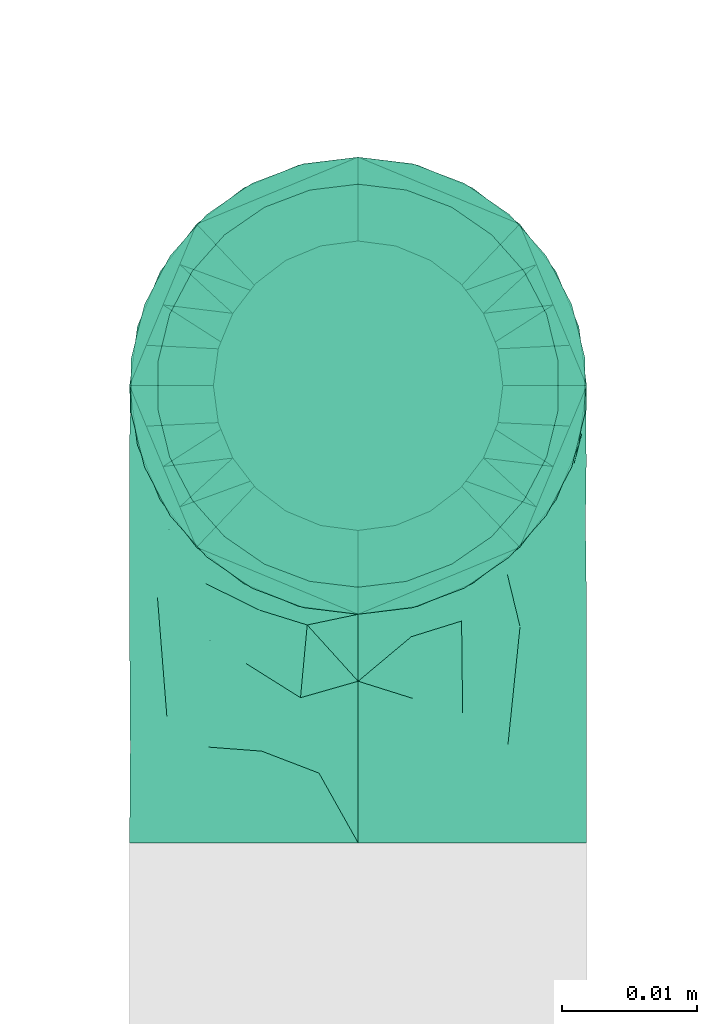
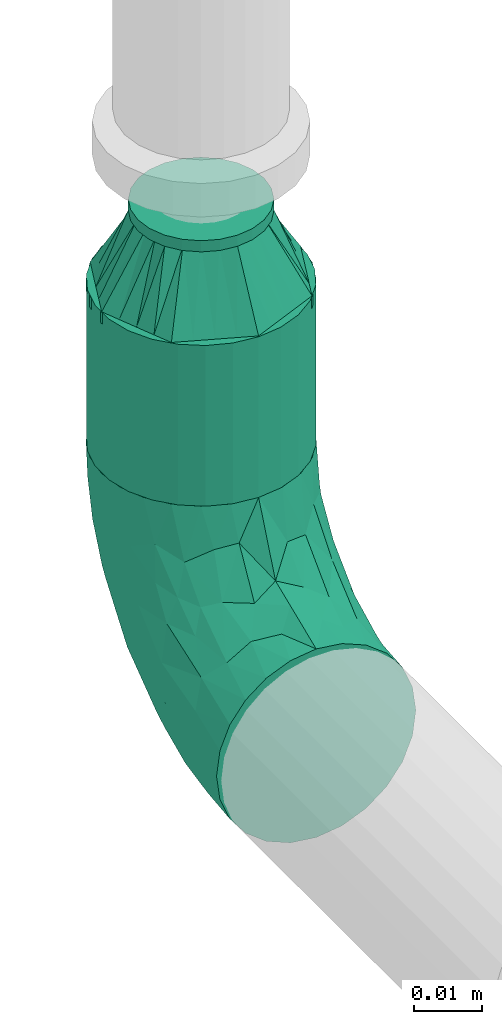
# One storey, part 23 of 94: 2 flow fittings, 1 flow segment.
"""IFC2X3 building model written with IfcOpenShell, lengths in millimetres."""

from ifc_helpers import new_model, entity, si_unit, converted_unit, derived_unit, direction, frame, origin_with_axes, origin_2d_with_axis, place, context, subcontext, project, spatial, hollow_circle, extrude, open_shell, surface_model, source, transform, mapped, type_object, element, save


model = new_model("IFC2X3")

# Units and contexts
model_context = context("Model", 3, precision=0.01, world=frame((0.0, 4.29681676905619e-09, 0.0)), true_north=direction((4.01073788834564e-13, 1.0)))
plan_context = context("Plan", 3, precision=0.01, world=frame((0.0, 4.29681676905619e-09, 0.0)), true_north=direction((4.01073788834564e-13, 1.0)))
body_context = subcontext(model_context, "Body", "Model", "MODEL_VIEW")
ifc_project = project(units=[converted_unit("PLANEANGLEUNIT", "DEGREE", entity("IfcPositiveLengthMeasure", 0.0174532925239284), si_unit("PLANEANGLEUNIT", "RADIAN"), dimensions=[0, 0, 0, 0, 0, 0, 0]), si_unit("AREAUNIT", "SQUARE_METRE"), si_unit("LENGTHUNIT", "METRE", prefix="MILLI"), si_unit("MASSUNIT", "GRAM", prefix="KILO"), si_unit("POWERUNIT", "WATT"), si_unit("PRESSUREUNIT", "PASCAL"), si_unit("FORCEUNIT", "NEWTON", prefix="KILO"), si_unit("ELECTRICCURRENTUNIT", "AMPERE"), si_unit("THERMODYNAMICTEMPERATUREUNIT", "DEGREE_CELSIUS"), si_unit("TIMEUNIT", "SECOND"), si_unit("VOLUMEUNIT", "CUBIC_METRE"), derived_unit("LINEARVELOCITYUNIT", [(si_unit("LENGTHUNIT", "METRE"), 1), (si_unit("TIMEUNIT", "SECOND"), -1)]), derived_unit("VOLUMETRICFLOWRATEUNIT", [(si_unit("VOLUMEUNIT", "CUBIC_METRE"), 1), (si_unit("TIMEUNIT", "SECOND"), -1)]), derived_unit("THERMALTRANSMITTANCEUNIT", [(si_unit("POWERUNIT", "WATT"), 1), (si_unit("THERMODYNAMICTEMPERATUREUNIT", "KELVIN"), -1), (si_unit("AREAUNIT", "SQUARE_METRE"), -1)])], contexts=[model_context, plan_context])

# Site, building, storey
site_placement = place(None, frame((0.0, -4.29681676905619e-09, 0.0), z_axis=(0.0, 0.0, 1.0), x_axis=(1.0, 0.0, 0.0)))
site = spatial("IfcSite", under=ifc_project, at=site_placement, CompositionType="ELEMENT")
building_placement = place(site_placement, frame((0.0, 4.29681676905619e-09, 0.0), z_axis=(0.0, 0.0, 1.0), x_axis=(1.0, 0.0, 0.0)))
building = spatial("IfcBuilding", under=site, at=building_placement, Name="mc-building", CompositionType="ELEMENT")
storey_placement = place(building_placement, frame((0.0, 0.0, 200300.0), z_axis=(0.0, 0.0, 1.0), x_axis=(1.0, 0.0, 0.0)))
storey = spatial("IfcBuildingStorey", under=building, at=storey_placement, Name="Nivå C", CompositionType="ELEMENT", Elevation=200300.0)

# Flow fittings
pipe_fitting_type_1 = type_object("IfcPipeFittingType", Name="magi_pipe_fe_reducer_centric_short_NOR", PredefinedType="TRANSITION")
shared_shape_1 = source(origin_with_axes(), body_context, "Body", "SurfaceModel", [
    surface_model("IfcShellBasedSurfaceModel", [(14.4, 5.35, -9.26647), (14.4, 0.0, -10.7), (14.4, 2.76936, -10.33541), (14.4, 10.33541, -2.76936), (14.4, 7.56604, -7.56604), (14.4, -10.33541, -2.76936), (14.4, 9.26647, -5.35), (14.4, 0.0, 10.7), (14.4, -5.35, -9.26647), (14.4, -2.76936, -10.33541), (14.4, -7.56604, -7.56604), (14.4, -9.26647, -5.35), (14.4, 10.7, 0.0), (14.4, 10.33541, 2.76936), (14.4, 9.26647, 5.35), (14.4, 7.56604, 7.56604), (14.4, 2.76936, 10.33541), (14.4, 5.35, 9.26647), (14.4, -10.33541, 2.76936), (14.4, -7.56604, 7.56604), (14.4, -9.26647, 5.35), (14.4, -10.7, 0.0), (14.4, -2.76936, 10.33541), (14.4, -5.35, 9.26647), (12.4, 2.76936, 10.33541), (12.4, -10.33541, -2.76936), (12.4, 0.0, 10.7), (12.4, 5.35, 9.26647), (12.4, 7.56604, 7.56604), (12.4, 9.26647, 5.35), (12.4, 10.33541, 2.76936), (12.4, -10.33541, 2.76936), (12.4, -2.76936, 10.33541), (12.4, -7.56604, 7.56604), (12.4, -5.35, 9.26647), (12.4, -9.26647, 5.35), (12.4, -10.7, 0.0), (12.4, 10.33541, -2.76936), (12.4, 5.35, -9.26647), (12.4, 9.26647, -5.35), (12.4, 7.56604, -7.56604), (12.4, 2.76936, -10.33541), (12.4, -9.26647, -5.35), (12.4, -5.35, -9.26647), (12.4, -7.56604, -7.56604), (12.4, 0.0, -10.7), (12.4, -2.76936, -10.33541), (12.4, 10.7, 0.0), (-2.0, 11.9501, 11.9501), (-2.0, 0.0, 16.9), (-2.0, 4.37404, 16.32415), (-2.0, 8.45, 14.63583), (-2.0, 14.63583, 8.45), (-2.0, 16.32415, 4.37404), (-2.0, -16.32415, 4.37404), (-2.0, -8.45, 14.63583), (-2.0, -14.63583, 8.45), (-2.0, -11.9501, 11.9501), (-2.0, -4.37404, 16.32415), (-2.0, -16.32415, -4.37404), (-2.0, -16.9, 0.0), (-2.0, -8.45, -14.63583), (-2.0, 16.32415, -4.37404), (-2.0, 11.9501, -11.9501), (-2.0, 14.63583, -8.45), (-2.0, 8.45, -14.63583), (-2.0, 4.37404, -16.32415), (-2.0, 0.0, -16.9), (-2.0, -11.9501, -11.9501), (-2.0, -14.63583, -8.45), (-2.0, -4.37404, -16.32415), (-2.0, 16.9, 0.0), (0.0, 4.37404, -16.32415), (0.0, 8.45, -14.63583), (0.0, 11.9501, -11.9501), (0.0, 0.0, -16.9), (0.0, 16.32415, -4.37404), (0.0, 16.32415, 4.37404), (0.0, 14.63583, -8.45), (0.0, -8.45, -14.63583), (0.0, -4.37404, -16.32415), (0.0, -11.9501, -11.9501), (0.0, -16.32415, -4.37404), (0.0, -14.63583, -8.45), (0.0, -16.32415, 4.37404), (0.0, 16.9, 0.0), (0.0, 14.63583, 8.45), (0.0, 11.9501, 11.9501), (0.0, 4.37404, 16.32415), (0.0, 8.45, 14.63583), (0.0, 0.0, 16.9), (0.0, -14.63583, 8.45), (0.0, -16.9, 0.0), (0.0, -8.45, 14.63583), (0.0, -11.9501, 11.9501), (0.0, -4.37404, 16.32415), (12.4, 9.3625, -2.31662), (0.0, 14.42505, -5.97505), (0.0, 15.66253, -2.98753), (12.4, -6.6875, -6.94985), (0.0, -13.18758, -8.96258), (0.0, 2.98753, -15.66253), (12.4, 0.0, -9.26647), (12.4, 6.6875, -6.94985), (0.0, 8.96258, -13.18758), (12.4, -9.3625, -2.31662), (0.0, -15.66253, -2.98753), (0.0, -14.42505, -5.97505), (0.0, 5.97505, -14.42505), (0.0, -2.98753, -15.66253), (0.0, -8.96258, -13.18758), (0.0, 13.18758, -8.96258), (12.4, 8.025, -4.63324), (12.4, -2.675, -9.26647), (12.4, 2.675, -9.26647), (0.0, -5.97505, -14.42505), (12.4, -8.025, -4.63324), (12.4, -9.3625, 2.31662), (0.0, -14.42505, 5.97505), (0.0, -15.66253, 2.98753), (12.4, 6.6875, 6.94985), (0.0, 13.18758, 8.96258), (0.0, -2.98753, 15.66253), (12.4, 0.0, 9.26647), (12.4, -6.6875, 6.94985), (0.0, -8.96258, 13.18758), (12.4, 9.3625, 2.31662), (0.0, 15.66253, 2.98753), (0.0, 14.42505, 5.97505), (0.0, -5.97505, 14.42505), (0.0, 2.98753, 15.66253), (0.0, 8.96258, 13.18758), (0.0, -13.18758, 8.96258), (12.4, -8.025, 4.63324), (12.4, 2.675, 9.26647), (12.4, -2.675, 9.26647), (0.0, 5.97505, 14.42505), (12.4, 8.025, 4.63324)], [open_shell([[[0, 1, 2]], [[3, 0, 4]], [[5, 0, 3]], [[3, 4, 6]], [[7, 5, 3]], [[1, 8, 9]], [[1, 0, 8]], [[10, 5, 11]], [[5, 10, 8]], [[0, 5, 8]], [[3, 12, 13]], [[13, 14, 15]], [[13, 15, 16]], [[7, 3, 16]], [[16, 15, 17]], [[7, 18, 5]], [[18, 19, 20]], [[21, 5, 18]], [[19, 22, 23]], [[22, 19, 18]], [[7, 22, 18]], [[13, 16, 3]], [[24, 25, 26]], [[27, 25, 24]], [[28, 29, 30]], [[28, 25, 27]], [[31, 26, 25]], [[32, 33, 34]], [[33, 32, 31]], [[33, 31, 35]], [[32, 26, 31]], [[31, 25, 36]], [[30, 37, 28]], [[25, 28, 37]], [[38, 37, 39]], [[37, 38, 25]], [[38, 39, 40]], [[41, 25, 38]], [[42, 43, 44]], [[43, 42, 25]], [[43, 45, 46]], [[43, 25, 41]], [[41, 45, 43]], [[37, 30, 47]], [[25, 5, 36]], [[42, 11, 25]], [[8, 44, 43]], [[42, 44, 10]], [[9, 43, 46]], [[25, 11, 5]], [[5, 21, 36]], [[9, 8, 43]], [[10, 44, 8]], [[10, 11, 42]], [[1, 9, 46]], [[46, 45, 1]], [[41, 2, 45]], [[38, 0, 41]], [[6, 40, 39]], [[38, 40, 4]], [[3, 39, 37]], [[38, 4, 0]], [[0, 2, 41]], [[12, 3, 37]], [[6, 39, 3]], [[6, 4, 40]], [[47, 12, 37]], [[45, 2, 1]], [[30, 13, 47]], [[29, 14, 30]], [[17, 28, 27]], [[29, 28, 15]], [[16, 27, 24]], [[30, 14, 13]], [[13, 12, 47]], [[16, 17, 27]], [[15, 28, 17]], [[15, 14, 29]], [[7, 16, 24]], [[24, 26, 7]], [[32, 22, 26]], [[34, 23, 32]], [[20, 33, 35]], [[34, 33, 19]], [[18, 35, 31]], [[34, 19, 23]], [[23, 22, 32]], [[21, 18, 31]], [[20, 35, 18]], [[20, 19, 33]], [[36, 21, 31]], [[26, 22, 7]], [[48, 49, 50]], [[48, 50, 51]], [[48, 52, 53]], [[48, 53, 49]], [[49, 53, 54]], [[55, 56, 57]], [[55, 58, 49]], [[56, 55, 49]], [[49, 54, 56]], [[54, 59, 60]], [[54, 53, 61]], [[53, 62, 63]], [[63, 62, 64]], [[63, 65, 66]], [[61, 53, 63]], [[67, 63, 66]], [[59, 68, 69]], [[68, 59, 61]], [[61, 67, 70]], [[59, 54, 61]], [[63, 67, 61]], [[53, 71, 62]], [[72, 73, 74]], [[75, 72, 74]], [[74, 76, 77]], [[76, 74, 78]], [[74, 77, 79]], [[75, 79, 80]], [[75, 74, 79]], [[81, 82, 83]], [[82, 81, 79]], [[79, 84, 82]], [[77, 76, 85]], [[77, 86, 87]], [[77, 87, 88]], [[88, 84, 79]], [[88, 87, 89]], [[84, 88, 90]], [[90, 91, 84]], [[92, 82, 84]], [[91, 93, 94]], [[91, 90, 93]], [[93, 90, 95]], [[79, 77, 88]], [[59, 82, 60]], [[69, 83, 59]], [[79, 68, 61]], [[69, 68, 81]], [[80, 61, 70]], [[59, 83, 82]], [[82, 92, 60]], [[80, 79, 61]], [[81, 68, 79]], [[81, 83, 69]], [[75, 80, 70]], [[70, 67, 75]], [[66, 72, 67]], [[65, 73, 66]], [[78, 63, 64]], [[65, 63, 74]], [[76, 64, 62]], [[65, 74, 73]], [[73, 72, 66]], [[85, 76, 62]], [[78, 64, 76]], [[78, 74, 63]], [[71, 85, 62]], [[67, 72, 75]], [[53, 77, 71]], [[52, 86, 53]], [[89, 48, 51]], [[52, 48, 87]], [[88, 51, 50]], [[53, 86, 77]], [[77, 85, 71]], [[88, 89, 51]], [[87, 48, 89]], [[87, 86, 52]], [[90, 88, 50]], [[50, 49, 90]], [[58, 95, 49]], [[55, 93, 58]], [[91, 57, 56]], [[55, 57, 94]], [[84, 56, 54]], [[55, 94, 93]], [[93, 95, 58]], [[92, 84, 54]], [[91, 56, 84]], [[91, 94, 57]], [[60, 92, 54]], [[49, 95, 90]], [[27, 34, 47]], [[47, 34, 43]], [[43, 38, 47]], [[43, 34, 36]], [[90, 87, 94]], [[92, 94, 87]], [[87, 74, 92]], [[75, 92, 74]], [[81, 92, 75]], [[74, 87, 85]], [[96, 97, 98]], [[81, 99, 100]], [[101, 102, 75]], [[98, 85, 47]], [[74, 103, 104]], [[104, 103, 38]], [[105, 106, 107]], [[38, 108, 104]], [[102, 109, 75]], [[110, 99, 81]], [[47, 96, 98]], [[103, 111, 112]], [[109, 102, 113]], [[36, 92, 106]], [[102, 101, 114]], [[110, 115, 43]], [[96, 112, 97]], [[107, 116, 105]], [[36, 106, 105]], [[113, 115, 109]], [[43, 115, 113]], [[116, 107, 100]], [[108, 38, 114]], [[111, 103, 74]], [[111, 97, 112]], [[99, 110, 43]], [[116, 100, 99]], [[101, 108, 114]], [[117, 118, 119]], [[87, 120, 121]], [[122, 123, 90]], [[119, 92, 36]], [[94, 124, 125]], [[125, 124, 34]], [[126, 127, 128]], [[34, 129, 125]], [[123, 130, 90]], [[131, 120, 87]], [[36, 117, 119]], [[124, 132, 133]], [[130, 123, 134]], [[47, 85, 127]], [[123, 122, 135]], [[131, 136, 27]], [[117, 133, 118]], [[128, 137, 126]], [[47, 127, 126]], [[134, 136, 130]], [[27, 136, 134]], [[137, 128, 121]], [[129, 34, 135]], [[132, 124, 94]], [[132, 118, 133]], [[120, 131, 27]], [[137, 121, 120]], [[122, 129, 135]]])]),
])
flow_fitting_1_placement = place(storey_placement, frame((524508.12395, 403933.19532, 2962.64799999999), z_axis=(-1.0, 0.0, 0.0), x_axis=(0.0, 0.0, 1.0)))
element("IfcFlowFitting", 1, at=flow_fitting_1_placement, inside=storey, type_object=pipe_fitting_type_1, Name="magi_pipe_fe_reducer_centric_short_NOR", context=body_context, shape_type="MappedRepresentation", body=[
    mapped(shared_shape_1, transform((0.0, 0.0, 0.0), scale=1.0)),
])
pipe_fitting_type_2 = type_object("IfcPipeFittingType", Name="magi_pipe_fe_elbow_short_001", PredefinedType="BEND")
shared_shape_2 = source(origin_with_axes(), body_context, "Body", "SurfaceModel", [
    surface_model("IfcShellBasedSurfaceModel", [(-33.8, 8.45, -14.63583), (-33.8, 4.37404, -16.32415), (-33.8, 11.9501, -11.9501), (-33.8, -11.9501, -11.9501), (-33.8, -14.63583, -8.45), (-33.8, -8.45, -14.63583), (-33.8, 0.0, -16.9), (-33.8, -4.37404, -16.32415), (-33.8, -4.37404, 16.32415), (-33.8, 0.0, 16.9), (-33.8, -8.45, 14.63583), (-33.8, 16.32415, -4.37404), (-33.8, 14.63583, -8.45), (-33.8, -16.32415, -4.37404), (-33.8, -16.9, 0.0), (-33.8, -16.32415, 4.37404), (-33.8, 11.9501, 11.9501), (-33.8, 14.63583, 8.45), (-33.8, 16.32415, 4.37404), (-33.8, 4.37404, 16.32415), (-33.8, 8.45, 14.63583), (-33.8, -14.63583, 8.45), (-33.8, -11.9501, 11.9501), (-33.8, 16.9, 0.0), (-11.9501, 33.8, -11.9501), (0.0, 33.8, -16.9), (-4.37404, 33.8, -16.32415), (-8.45, 33.8, -14.63583), (-14.63583, 33.8, -8.45), (-16.32415, 33.8, -4.37404), (14.63583, 33.8, -8.45), (8.45, 33.8, 14.63583), (16.32415, 33.8, -4.37404), (8.45, 33.8, -14.63583), (11.9501, 33.8, -11.9501), (4.37404, 33.8, -16.32415), (16.32415, 33.8, 4.37404), (16.9, 33.8, 0.0), (-11.9501, 33.8, 11.9501), (-16.32415, 33.8, 4.37404), (-14.63583, 33.8, 8.45), (-8.45, 33.8, 14.63583), (-4.37404, 33.8, 16.32415), (11.9501, 33.8, 11.9501), (14.63583, 33.8, 8.45), (0.0, 33.8, 16.9), (4.37404, 33.8, 16.32415), (-16.9, 33.8, 0.0), (-24.79389, -13.12945, 9.48721), (-22.19287, -9.75018, 12.59315), (-24.09897, -14.97035, 0.0), (-14.93934, -10.76256, 8.5297), (-22.46095, -14.75051, 5.27077), (14.75051, 22.46094, 5.27077), (11.9251, 13.23888, 4.33236), (13.04069, 14.39795, 0.0), (7.71387, 13.68847, 11.55891), (9.75018, 22.19287, 12.59315), (4.10169, 13.0571, 14.04018), (-24.84007, -6.39063, 15.2048), (-25.81779, -2.23879, 16.61097), (-23.66549, 2.59054, 16.87119), (-26.50418, 14.06512, 11.08152), (-24.21253, 17.66365, 7.72657), (-29.58514, 15.86957, 7.00283), (-6.17382, -7.5455, 0.0), (-13.23888, -11.9251, 4.33236), (-14.39795, -13.04069, 0.0), (-17.81434, 18.87373, 11.97104), (-6.30846, 29.15138, 15.82987), (-2.31622, 25.28002, 16.85849), (-29.23923, 10.23435, 13.77053), (-1.45439, -2.85688, 7.61475), (-0.28326, 0.34872, 10.09509), (-5.74484, -4.04709, 10.4122), (-4.41137, 11.31918, 16.59407), (-8.39727, 3.10034, 15.7812), (-1.72649, 9.1306, 15.53089), (-17.39909, 24.75344, 7.64977), (-26.19233, 20.0512, 0.0), (-28.14518, 17.29657, 4.25857), (-26.05147, 6.6281, 15.96447), (-5.87354, 16.61944, 16.86968), (-12.51807, 12.51807, 16.48937), (-10.06312, 7.38516, 16.81295), (-3.01882, 3.01882, 13.81718), (-13.0571, -4.10169, 14.04018), (-16.82553, -0.15166, 16.38038), (10.76256, 14.93934, 8.5297), (13.12945, 24.79389, 9.48721), (6.39063, 24.84007, 15.2048), (2.23879, 25.81779, 16.61097), (-13.68847, -7.71387, 11.55891), (14.97035, 24.09897, 0.0), (-7.30894, 22.89991, 16.09489), (-10.67958, 26.17414, 14.008), (-12.78295, 18.26924, 15.06066), (-13.88562, 22.45231, 12.93244), (-18.04944, 15.16501, 14.04434), (-23.11658, 20.08178, 4.02986), (-21.84989, 21.84989, 0.0), (-18.55817, 25.48277, 3.93065), (-13.95142, 26.94732, 11.03289), (-18.57098, 7.23906, 16.59756), (-16.58335, 4.14122, 16.89279), (-17.96666, 11.46709, 15.63151), (-9.84453, 17.54304, 16.18938), (0.15166, 16.82553, 16.38038), (-23.27207, 11.47201, 14.23154), (3.84842, 5.86994, 10.70473), (-8.0212, -7.54413, 7.93275), (1.00345, -2.19508, 4.57414), (5.13203, 3.01004, 5.90201), (5.24161, 1.7543, 2.53265), (8.70457, 7.04947, 3.99182), (-20.0512, 26.19233, 0.0), (8.4852, 8.76699, 7.09296), (-4.55488, -6.72064, 4.90681), (2.05031, -2.05031, 0.0), (7.5455, 6.17382, 0.0), (-26.75399, 2.1369, -16.845), (-14.61995, 24.73803, -11.27736), (-28.45274, -13.45335, -9.81895), (-26.00469, 6.63555, -15.96645), (-23.06726, 20.04573, -4.26202), (-13.80647, -4.26506, -14.17873), (-14.67501, -0.21081, -16.07388), (-6.7902, -0.2828, -13.8478), (-24.53586, 11.08096, -14.13417), (-26.72048, 14.00837, -11.05776), (10.0967, 24.44989, -12.75976), (5.83237, 21.40218, -15.03047), (6.66249, 28.54238, -15.38093), (-20.38182, 15.48705, -12.74596), (12.53268, 21.23441, -9.15363), (12.54494, 15.67504, -5.54878), (9.7522, 12.89279, -8.66343), (-15.65186, 19.64213, -13.01327), (-12.03528, 20.66498, -14.67665), (-15.61907, 15.61906, -14.83879), (-25.56551, -15.26206, 0.0), (-24.65452, -15.12934, -5.50955), (13.45335, 28.45274, -9.81895), (15.12934, 24.65452, -5.50955), (-7.35442, -8.31014, -5.65563), (-15.67504, -12.54494, -5.54878), (-24.44989, -10.0967, -12.75976), (0.16522, 0.41303, -9.71728), (-5.70658, -5.33066, -8.89288), (-5.13869, -2.37198, -11.53565), (-21.23441, -12.53268, -9.15363), (0.71146, 7.93863, -14.09382), (0.21081, 14.67501, -16.07388), (3.49291, 14.42772, -14.76381), (-24.89911, -2.13088, -16.591), (-28.54238, -6.66249, -15.38093), (-18.44386, -7.71663, -13.26957), (2.13088, 24.89911, -16.591), (-28.64342, 17.44413, -2.89318), (1.70017, -1.28722, -5.09504), (-16.57067, 26.81947, -7.36596), (-17.69055, 27.4263, -3.76405), (-12.89279, -9.7522, -8.66343), (-5.96611, 5.96611, -15.95814), (-20.53709, 20.09345, -8.28985), (-2.1369, 26.75399, -16.845), (-6.89872, 24.58781, -16.02578), (-10.60739, 26.53157, -13.98044), (-21.40218, -5.83237, -15.03047), (2.93192, 5.89627, -11.55917), (6.89393, 12.61842, -11.82233), (5.58056, 5.95325, -8.79455), (-3.99512, 18.61798, -16.89635), (8.31014, 7.35442, -5.65563), (-9.1383, 9.86148, -16.89041), (-9.99983, 16.02119, -16.39699), (-16.68576, 9.78031, -16.34199), (-27.01915, 16.61158, -7.12979), (15.26206, 25.56551, 0.0), (-18.61798, 3.99512, -16.89635), (-19.37495, 27.82495, 0.0), (-12.61842, -6.89393, -11.82233), (-18.84705, 19.14018, -10.96545)], [open_shell([[[0, 1, 2]], [[3, 4, 5]], [[6, 7, 5]], [[8, 9, 10]], [[1, 6, 2]], [[11, 12, 2]], [[4, 2, 6]], [[2, 13, 10]], [[5, 4, 6]], [[2, 4, 13]], [[14, 15, 13]], [[11, 2, 16]], [[11, 17, 18]], [[11, 16, 17]], [[19, 20, 16]], [[16, 2, 10]], [[19, 16, 10]], [[21, 22, 15]], [[22, 13, 15]], [[22, 10, 13]], [[10, 9, 19]], [[11, 18, 23]], [[24, 25, 26]], [[24, 26, 27]], [[24, 28, 29]], [[25, 24, 30]], [[31, 32, 24]], [[33, 30, 34]], [[33, 35, 25]], [[25, 30, 33]], [[32, 30, 24]], [[32, 36, 37]], [[38, 24, 29]], [[39, 40, 29]], [[40, 38, 29]], [[38, 41, 42]], [[38, 31, 24]], [[31, 38, 42]], [[36, 43, 44]], [[36, 32, 43]], [[31, 45, 46]], [[32, 31, 43]], [[42, 45, 31]], [[39, 29, 47]], [[22, 48, 49]], [[15, 14, 50]], [[51, 48, 52]], [[53, 54, 55]], [[48, 22, 21]], [[15, 52, 21]], [[56, 57, 58]], [[49, 10, 22]], [[49, 59, 10]], [[9, 60, 61]], [[62, 63, 64]], [[65, 66, 67]], [[57, 43, 31]], [[62, 68, 63]], [[42, 69, 70]], [[20, 71, 16]], [[8, 60, 9]], [[72, 73, 74]], [[75, 76, 77]], [[16, 62, 17]], [[40, 39, 78]], [[79, 23, 80]], [[64, 18, 17]], [[9, 61, 19]], [[19, 81, 20]], [[82, 83, 84]], [[74, 85, 86]], [[59, 86, 87]], [[88, 89, 57]], [[90, 31, 46]], [[44, 53, 36]], [[46, 45, 91]], [[54, 53, 88]], [[44, 89, 53]], [[92, 86, 49]], [[89, 44, 43]], [[10, 59, 8]], [[53, 55, 93]], [[93, 36, 53]], [[66, 52, 67]], [[94, 82, 70]], [[95, 96, 94]], [[97, 98, 96]], [[79, 99, 100]], [[41, 38, 95]], [[101, 100, 99]], [[68, 78, 63]], [[42, 41, 69]], [[23, 18, 80]], [[95, 94, 69]], [[78, 101, 99]], [[38, 102, 95]], [[70, 45, 42]], [[97, 95, 102]], [[15, 50, 52]], [[90, 57, 31]], [[57, 90, 58]], [[81, 19, 61]], [[103, 104, 84]], [[105, 81, 103]], [[38, 40, 102]], [[106, 96, 83]], [[94, 106, 82]], [[91, 70, 107]], [[71, 62, 16]], [[62, 108, 98]], [[86, 59, 49]], [[67, 52, 50]], [[60, 59, 87]], [[92, 49, 51]], [[86, 85, 76]], [[91, 90, 46]], [[37, 36, 93]], [[107, 77, 58]], [[107, 58, 90]], [[58, 85, 109]], [[110, 74, 92]], [[72, 74, 110]], [[66, 51, 52]], [[72, 111, 112]], [[113, 114, 112]], [[56, 88, 57]], [[52, 48, 21]], [[49, 48, 51]], [[57, 89, 43]], [[53, 89, 88]], [[103, 81, 61]], [[71, 81, 108]], [[18, 64, 80]], [[63, 78, 99]], [[47, 115, 101]], [[101, 115, 100]], [[40, 78, 102]], [[68, 102, 78]], [[97, 96, 95]], [[105, 98, 108]], [[103, 84, 83]], [[107, 70, 82]], [[76, 84, 87]], [[82, 84, 75]], [[70, 91, 45]], [[90, 91, 107]], [[59, 60, 8]], [[61, 60, 87]], [[73, 85, 74]], [[109, 112, 116]], [[103, 61, 104]], [[105, 103, 83]], [[96, 105, 83]], [[81, 105, 108]], [[96, 98, 105]], [[62, 98, 68]], [[61, 87, 104]], [[87, 84, 104]], [[86, 76, 87]], [[77, 76, 85]], [[58, 77, 85]], [[75, 77, 107]], [[82, 75, 107]], [[76, 75, 84]], [[81, 71, 20]], [[62, 71, 108]], [[95, 69, 41]], [[70, 69, 94]], [[62, 64, 17]], [[80, 63, 99]], [[63, 80, 64]], [[80, 99, 79]], [[66, 65, 117]], [[110, 66, 117]], [[112, 114, 116]], [[118, 117, 65]], [[110, 92, 51]], [[112, 111, 113]], [[119, 55, 54]], [[74, 86, 92]], [[58, 109, 56]], [[116, 56, 109]], [[66, 110, 51]], [[72, 110, 117]], [[111, 72, 117]], [[73, 112, 109]], [[117, 118, 111]], [[113, 111, 118]], [[118, 119, 113]], [[114, 119, 54]], [[119, 114, 113]], [[116, 54, 88]], [[54, 116, 114]], [[116, 88, 56]], [[112, 73, 72]], [[85, 73, 109]], [[78, 39, 101]], [[47, 101, 39]], [[102, 68, 97]], [[97, 68, 98]], [[82, 106, 83]], [[94, 96, 106]], [[1, 120, 6]], [[28, 24, 121]], [[3, 122, 4]], [[0, 123, 1]], [[100, 124, 79]], [[125, 126, 127]], [[128, 2, 129]], [[130, 131, 132]], [[128, 129, 133]], [[134, 135, 136]], [[137, 138, 139]], [[128, 0, 2]], [[67, 140, 141]], [[134, 142, 143]], [[141, 13, 4]], [[144, 65, 145]], [[146, 3, 5]], [[147, 148, 149]], [[145, 141, 150]], [[151, 152, 153]], [[154, 7, 6]], [[5, 155, 146]], [[150, 146, 156]], [[155, 5, 7]], [[143, 135, 134]], [[35, 157, 25]], [[23, 79, 158]], [[148, 159, 144]], [[160, 161, 29]], [[145, 162, 144]], [[163, 152, 151]], [[29, 28, 160]], [[121, 164, 160]], [[33, 34, 130]], [[25, 165, 26]], [[26, 165, 166]], [[142, 34, 30]], [[24, 27, 167]], [[124, 161, 164]], [[157, 35, 132]], [[155, 154, 168]], [[123, 0, 128]], [[169, 170, 171]], [[172, 157, 152]], [[26, 166, 27]], [[132, 35, 33]], [[142, 130, 34]], [[168, 154, 126]], [[136, 135, 173]], [[133, 137, 139]], [[2, 12, 129]], [[170, 131, 130]], [[30, 32, 143]], [[172, 174, 175]], [[176, 123, 128]], [[158, 177, 11]], [[135, 55, 119]], [[167, 27, 166]], [[175, 166, 172]], [[137, 167, 138]], [[122, 141, 4]], [[140, 14, 13]], [[32, 37, 178]], [[170, 130, 134]], [[152, 157, 131]], [[165, 157, 172]], [[153, 170, 151]], [[152, 163, 174]], [[168, 125, 156]], [[122, 146, 150]], [[120, 154, 6]], [[179, 174, 126]], [[179, 126, 154]], [[126, 163, 127]], [[162, 145, 150]], [[140, 13, 141]], [[32, 178, 143]], [[55, 143, 178]], [[177, 129, 12]], [[128, 133, 139]], [[176, 128, 139]], [[120, 123, 179]], [[121, 160, 28]], [[161, 100, 180]], [[166, 175, 138]], [[121, 24, 167]], [[161, 47, 29]], [[79, 124, 158]], [[124, 164, 177]], [[161, 124, 100]], [[136, 171, 170]], [[127, 163, 151]], [[147, 171, 159]], [[148, 144, 162]], [[127, 151, 169]], [[127, 181, 125]], [[129, 177, 164]], [[12, 11, 177]], [[159, 65, 144]], [[67, 141, 145]], [[143, 55, 135]], [[135, 119, 173]], [[123, 120, 1]], [[154, 120, 179]], [[157, 165, 25]], [[166, 165, 172]], [[172, 152, 174]], [[176, 139, 175]], [[126, 174, 163]], [[176, 174, 179]], [[174, 176, 175]], [[123, 176, 179]], [[150, 181, 162]], [[127, 149, 181]], [[181, 148, 162]], [[159, 148, 147]], [[171, 136, 173]], [[170, 134, 136]], [[159, 171, 173]], [[171, 147, 169]], [[169, 147, 149]], [[151, 170, 169]], [[164, 182, 129]], [[182, 121, 137]], [[181, 149, 148]], [[169, 149, 127]], [[182, 137, 133]], [[167, 137, 121]], [[166, 138, 167]], [[175, 139, 138]], [[129, 182, 133]], [[121, 182, 164]], [[161, 160, 164]], [[47, 161, 180]], [[177, 158, 124]], [[23, 158, 11]], [[130, 132, 33]], [[157, 132, 131]], [[143, 142, 30]], [[130, 142, 134]], [[154, 155, 7]], [[146, 155, 168]], [[146, 122, 3]], [[141, 122, 150]], [[152, 131, 153]], [[159, 119, 118]], [[67, 145, 65]], [[170, 153, 131]], [[119, 159, 173]], [[159, 118, 65]], [[156, 125, 181]], [[126, 125, 168]], [[150, 156, 181]], [[168, 156, 146]]])]),
])
flow_fitting_2_placement = place(storey_placement, frame((524508.12395, 403933.19532, 2900.0), z_axis=(1.0, 0.0, 0.0), x_axis=(0.0, 1.0, 0.0)))
element("IfcFlowFitting", 2, at=flow_fitting_2_placement, inside=storey, type_object=pipe_fitting_type_2, Name="magi_pipe_fe_elbow_short_001", context=body_context, shape_type="MappedRepresentation", body=[
    mapped(shared_shape_2, transform((0.0, 0.0, 0.0), scale=1.0)),
])

# Flow segment
pipe_segment_type = type_object("IfcPipeSegmentType", Name="Stålrør normaltykke", PredefinedType="RIGIDSEGMENT")
shared_shape_3 = source(origin_with_axes(), body_context, "Body", "SweptSolid", [
    extrude(hollow_circle(Radius=16.9, WallThickness=2.0, at=origin_2d_with_axis()), frame((0.0, 0.0, 0.0), z_axis=(1.0, 0.0, 0.0), x_axis=(0.0, 1.0, 0.0)), (0.0, 0.0, 1.0), 28.8),
])
flow_segment_placement = place(storey_placement, frame((524508.12395, 403933.19532, 2933.79999999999), z_axis=(-1.0, 0.0, 0.0), x_axis=(0.0, 0.0, 1.0)))
element("IfcFlowSegment", 3, at=flow_segment_placement, inside=storey, type_object=pipe_segment_type, Name="Stålrør normaltykke", context=body_context, shape_type="MappedRepresentation", body=[
    mapped(shared_shape_3, transform((0.0, 0.0, 0.0), scale=1.0)),
])

save(model, "model.ifc")
